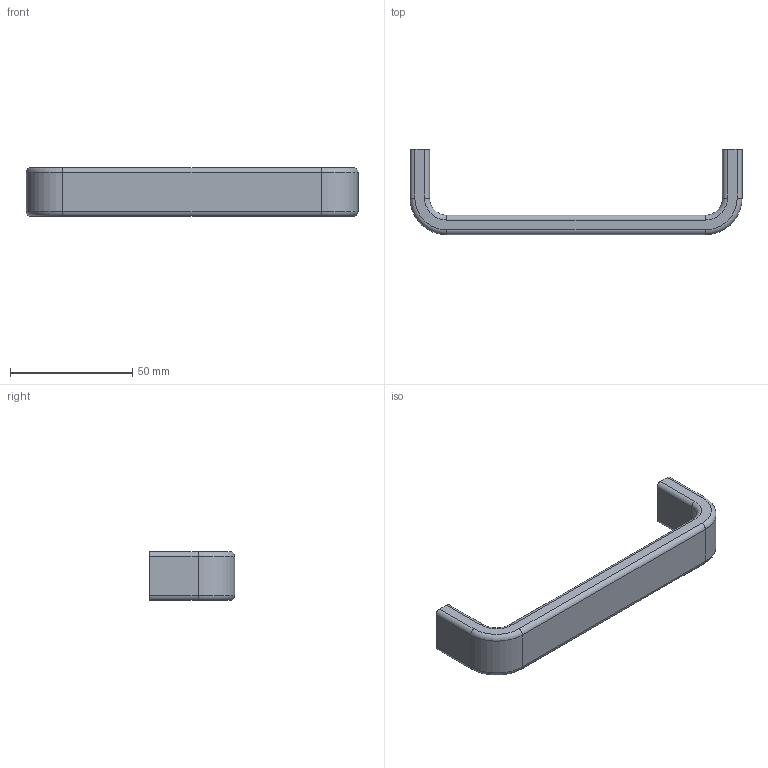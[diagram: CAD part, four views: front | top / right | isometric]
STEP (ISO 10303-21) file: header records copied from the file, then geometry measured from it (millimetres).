
FILE_DESCRIPTION( ( '' ), '1' );
FILE_NAME( 'C:/Documents and Settings/Sachin/Desktop/Sheet 10_1/stp/ 115147.stp', '2013-10-22T11:17:58', ( '' ), ( '' ), ' ', ' ', ' ' );
FILE_SCHEMA( ( 'CONFIG_CONTROL_DESIGN' ) );
Length unit declared in the file: millimetre
Products named in the file (1): 1
Bounding box: 136 x 35 x 20 mm (x, y, z)
Volume: 27876.5 mm3; surface area: 10118.5 mm2
Topology: 1 solids, 1 shells, 40 faces, 92 edges, 56 vertices
Faces by surface type: cylinder 20, plane 12, torus 8
Entity records: 1180 total; most frequent: DIRECTION 222, CARTESIAN_POINT 189, ORIENTED_EDGE 184, EDGE_CURVE 92, AXIS2_PLACEMENT_3D 89, VERTEX_POINT 56, CIRCLE 48, LINE 44
